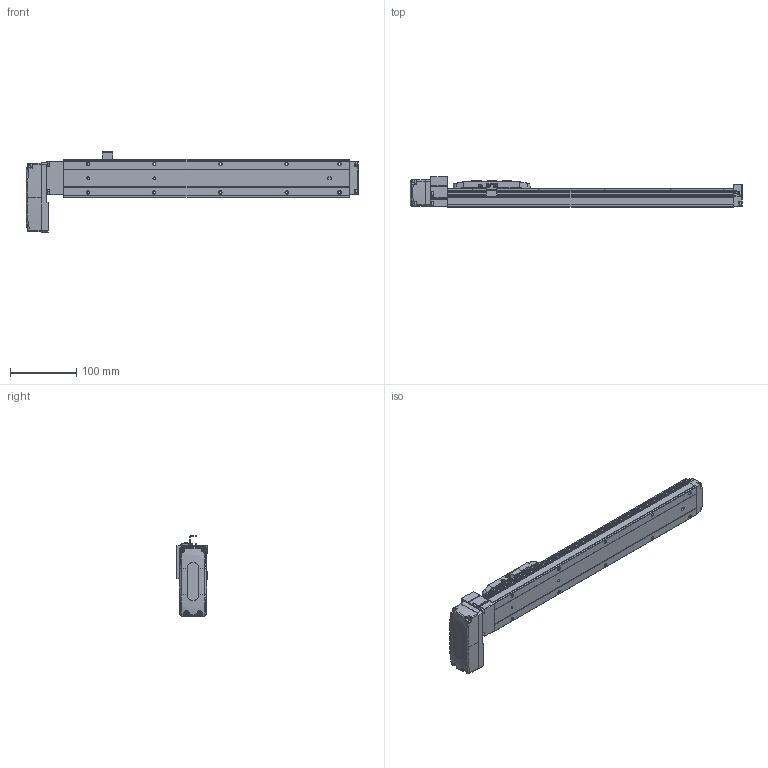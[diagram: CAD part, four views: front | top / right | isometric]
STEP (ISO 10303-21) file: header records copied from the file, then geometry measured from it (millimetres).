
FILE_DESCRIPTION (( 'STEP AP203' ), '1' );
FILE_NAME ('EFS-05R_P.STEP', '2025-07-17T05:39:34', ( '' ), ( '' ), 'SwSTEP 2.0', 'SolidWorks 2024', '' );
FILE_SCHEMA (( 'CONFIG_CONTROL_DESIGN' ));
Length unit declared in the file: millimetre
Products named in the file (1): EFS-05R_P
Bounding box: 502 x 46 x 121.5 mm (x, y, z)
Volume: 852571.7 mm3; surface area: 162522.9 mm2
Topology: 24 solids, 24 shells, 1451 faces, 3618 edges, 2230 vertices
Faces by surface type: plane 618, cylinder 507, cone 132, torus 88, bspline 78, sphere 28
Entity records: 46704 total; most frequent: CARTESIAN_POINT 12881, ORIENTED_EDGE 7116, DIRECTION 6986, EDGE_CURVE 3558, AXIS2_PLACEMENT_3D 2534, VERTEX_POINT 2230, LINE 1918, VECTOR 1918
